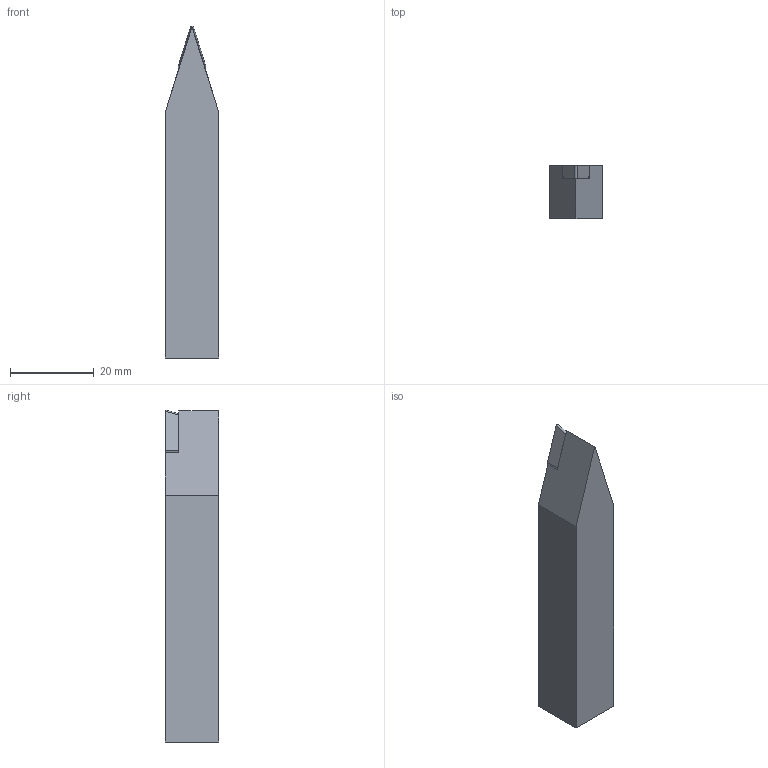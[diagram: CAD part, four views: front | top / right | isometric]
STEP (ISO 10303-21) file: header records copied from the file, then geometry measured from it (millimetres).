
FILE_DESCRIPTION (( 'STEP AP203' ), '1' );
FILE_NAME ('SVVBN08-2K-HAAS.STEP', '2020-11-06T07:54:28', ( '' ), ( '' ), 'SwSTEP 2.0', 'SolidWorks 2015', '' );
FILE_SCHEMA (( 'CONFIG_CONTROL_DESIGN' ));
Length unit declared in the file: millimetre
Products named in the file (4): SVVBN08-2K-HAAS; VBMT110304_ル遽; SVVBN08-2K-HAAS_ル遽
Assembly tree (3 placements, depth 3):
  SVVBN08-2K-HAAS
    SVVBN08-2K-HAAS
      SVVBN08-2K-HAAS_ル遽
      VBMT110304_ル遽
Bounding box: 12.7 x 12.7 x 79.38 mm (x, y, z)
Volume: 11121.4 mm3; surface area: 4218 mm2
Topology: 2 solids, 2 shells, 20 faces, 47 edges, 31 vertices
Faces by surface type: plane 16, cylinder 3, cone 1
Full cylindrical faces by diameter (mm): 2.9 x1
Entity records: 978 total; most frequent: CARTESIAN_POINT 115, DIRECTION 98, ORIENTED_EDGE 90, EDGE_CURVE 45, LINE 38, VECTOR 38, PERSON_AND_ORGANIZATION 35, VERTEX_POINT 31
